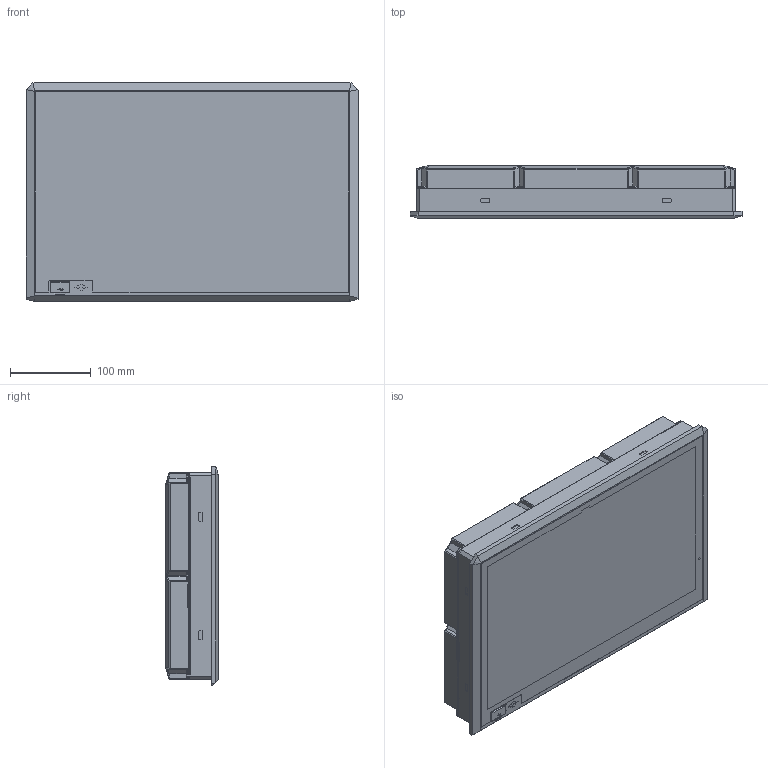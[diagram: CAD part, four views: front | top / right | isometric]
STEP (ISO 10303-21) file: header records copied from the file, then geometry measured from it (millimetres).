
FILE_DESCRIPTION(/* description */ (''),/* implementation_level */ '2;1');
FILE_NAME(/* name */ 'TGC65-ET',/* time_stamp */ '2023-04-10T16:41:40+08:00',/* author */ (''),/* organization */ (''),/* preprocessor_version */ 'ST-DEVELOPER v16.5',/* originating_system */ '',/* authorisation */ '');
FILE_SCHEMA (('AUTOMOTIVE_DESIGN'));
Length unit declared in the file: inch
Products named in the file (2): Document; 图块 01
Assembly tree (1 placements, depth 2):
  Document
    图块 01
Bounding box: 410 x 65.29 x 270 mm (x, y, z)
Volume: 3731266.7 mm3; surface area: 708786.4 mm2
Topology: 2 solids, 1112 shells, 1741 faces, 7516 edges, 6948 vertices
Faces by surface type: plane 1335, bspline 406
Entity records: 81968 total; most frequent: CARTESIAN_POINT 38600, ORIENTED_EDGE 9142, EDGE_CURVE 7507, VERTEX_POINT 6938, B_SPLINE_CURVE_WITH_KNOTS 6725, EDGE_LOOP 1887, ADVANCED_FACE 1741, FACE_OUTER_BOUND 1741
